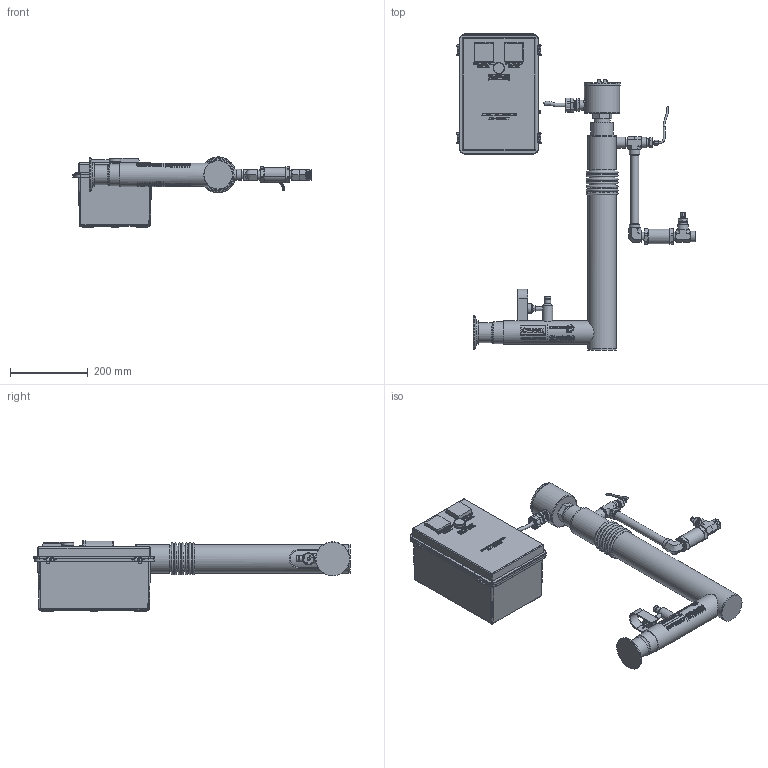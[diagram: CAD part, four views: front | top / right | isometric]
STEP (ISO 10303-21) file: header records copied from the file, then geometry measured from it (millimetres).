
FILE_DESCRIPTION (( 'STEP AP203' ), '1' );
FILE_NAME ('CA00620-TF & CA00621-TF.step', '2025-12-17T20:09:17', ( '' ), ( '' ), 'SwSTEP 2.0', 'SolidWorks 2023', '' );
FILE_SCHEMA (( 'CONFIG_CONTROL_DESIGN' ));
Products named in the file (1): CA00620-TF & CA00621-TF
Bounding box: 611.41 x 810.62 x 180.05 mm (x, y, z)
Volume: 4807346.4 mm3; surface area: 1035187 mm2
Topology: 125 solids, 126 shells, 3931 faces, 9737 edges, 6288 vertices
Faces by surface type: plane 2274, cylinder 770, bspline 453, cone 222, torus 157, sphere 55
Full cylindrical faces by diameter (mm): 0.896 x2, 0.982 x2, 1.067 x2, 1.223 x2, 1.381 x2, 1.78 x2, 1.842 x2, 1.935 x4, 2.045 x2, 2.179 x2, 2.284 x2, 2.405 x2, 2.744 x2, 3.05 x2, 3.302 x2, 3.322 x4, 3.706 x2, 4 x12, 4.031 x2, 4.18 x2, 4.318 x2, 4.578 x2, 4.826 x4, 5.113 x2, 5.5 x2, 5.539 x2, 5.7 x2, 6.288 x2, 6.45 x2, 7.722 x1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
Entity records: 164349 total; most frequent: CARTESIAN_POINT 78491, ORIENTED_EDGE 18478, DIRECTION 15612, EDGE_CURVE 9239, VERTEX_POINT 6152, VECTOR 5400, LINE 5400, AXIS2_PLACEMENT_3D 5106
